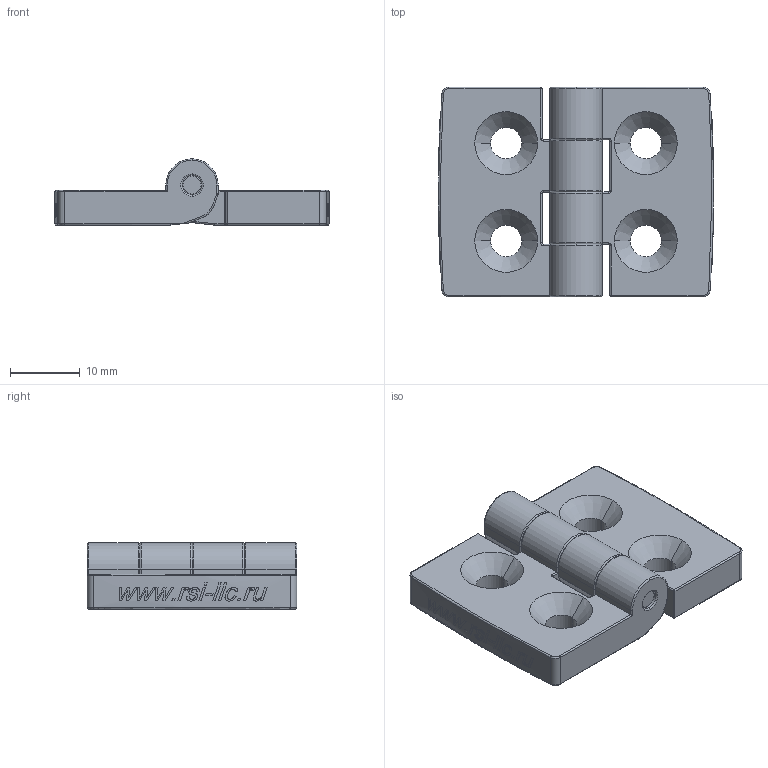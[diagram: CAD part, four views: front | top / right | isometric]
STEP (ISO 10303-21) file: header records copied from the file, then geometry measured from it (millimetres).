
FILE_DESCRIPTION (( 'STEP AP214' ), '1' );
FILE_NAME ('3012.STEP', '2020-08-29T06:53:16', ( '' ), ( '' ), 'SwSTEP 2.0', 'SolidWorks 2018', '' );
FILE_SCHEMA (( 'AUTOMOTIVE_DESIGN' ));
Length unit declared in the file: millimetre
Products named in the file (3): 3012-02; 3012-01; 3012
Assembly tree (3 placements, depth 2):
  3012
    3012-01  x2
    3012-02
Bounding box: 39.41 x 30 x 9.5 mm (x, y, z)
Volume: 5544.9 mm3; surface area: 4449.2 mm2
Topology: 3 solids, 3 shells, 534 faces, 1366 edges, 852 vertices
Faces by surface type: plane 248, bspline 124, cylinder 92, torus 44, sphere 18, cone 8
Entity records: 10486 total; most frequent: CARTESIAN_POINT 4413, ORIENTED_EDGE 1362, DIRECTION 938, EDGE_CURVE 681, VERTEX_POINT 430, AXIS2_PLACEMENT_3D 346, B_SPLINE_CURVE_WITH_KNOTS 296, EDGE_LOOP 295
